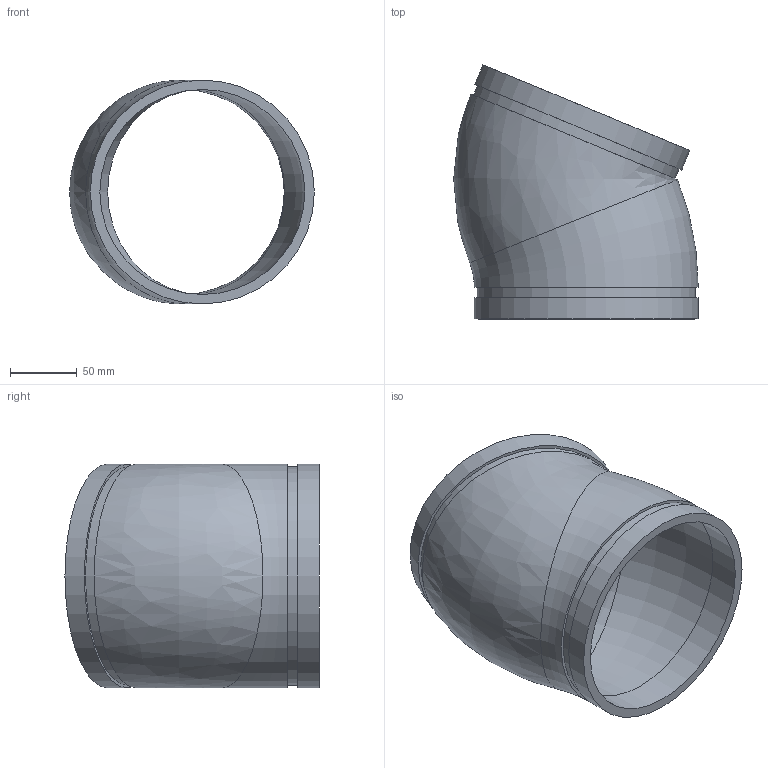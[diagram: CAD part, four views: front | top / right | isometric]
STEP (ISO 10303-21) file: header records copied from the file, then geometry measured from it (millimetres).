
FILE_DESCRIPTION(/* description */ ('VIC ELBOW 22 1/2 DEG GOOSENECK No 12 (OGS)','CAx-IF Rec.Pracs.---Representation and Presentation of Product Manufacturing Information (PMI)---4.0---2014-10-13'),/* implementation_level */ '2;1');
FILE_NAME(/* name */ 'C:\Users\Vjadhav\Desktop\CAD for Inventor\1\12\STEP\Victaulic_IPS_Elbow 22.5 Deg Gooseneck_No 12 (OGS)\Victaulic_IPS_Elbow 22.5 Deg Gooseneck_No 12 (OGS)_6 (150).stp',/* time_stamp */ '2021-12-22T09:18:41+06:00',/* author */ ('Aayare'),/* organization */ ('Victaulic'),/* preprocessor_version */ 'ST-DEVELOPER v17.2',/* originating_system */ 'Autodesk Inventor 2019',/* authorisation */ '');
FILE_SCHEMA (('AP242_MANAGED_MODEL_BASED_3D_ENGINEERING_MIM_LF { 1 0 10303 442 1 1 4 }'));
Length unit declared in the file: inch
Products named in the file (1): GN12-06.0
Bounding box: 183.79 x 190.95 x 168.28 mm (x, y, z)
Volume: 583561.1 mm3; surface area: 177024.5 mm2
Topology: 1 solids, 1 shells, 16 faces, 43 edges, 31 vertices
Faces by surface type: plane 6, cylinder 6, torus 3, bspline 1
Full cylindrical faces by diameter (mm): 154.051 x2, 163.957 x2, 168.275 x2
Entity records: 702 total; most frequent: DIRECTION 134, CARTESIAN_POINT 132, ORIENTED_EDGE 82, AXIS2_PLACEMENT_3D 64, EDGE_CURVE 41, CIRCLE 35, VERTEX_POINT 31, EDGE_LOOP 22
